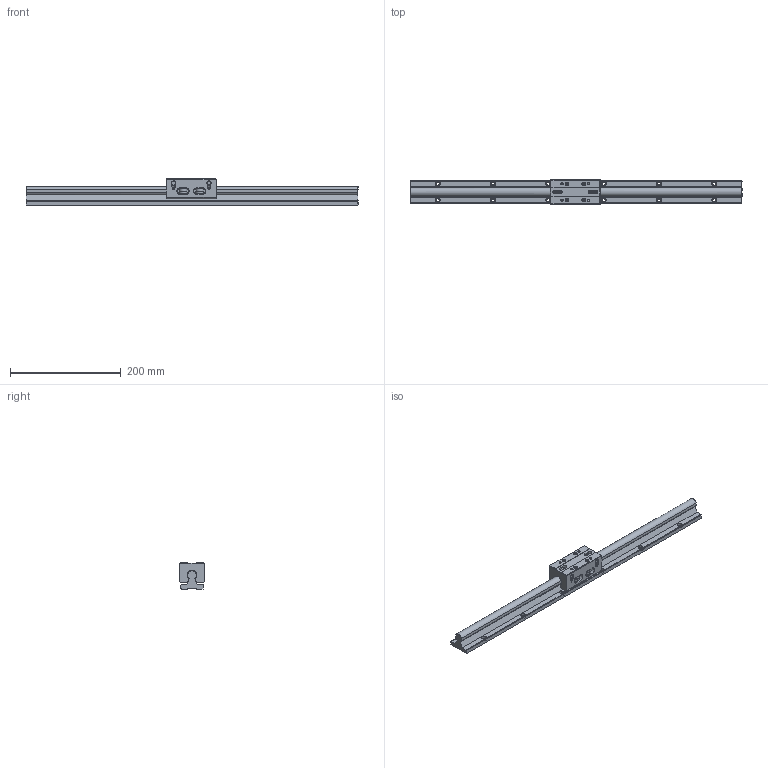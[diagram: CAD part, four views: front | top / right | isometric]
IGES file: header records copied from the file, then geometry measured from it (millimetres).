
Global section: file name: No Iges File Name specified; native system: AutoDesk Inventor R10; preprocessor: AutoDesk Inventor Iges Exporter R10; author: No Author specified; organization: No Organization specified; date: 20101222.155404; units: millimetre
Bounding box: 600 x 45 x 47 mm (x, y, z)
Surface area: 117699 mm2 (no closed solid volume)
Topology: 0 solids, 0 shells, 534 faces, 4086 edges, 4058 vertices
Faces by surface type: bspline 534
